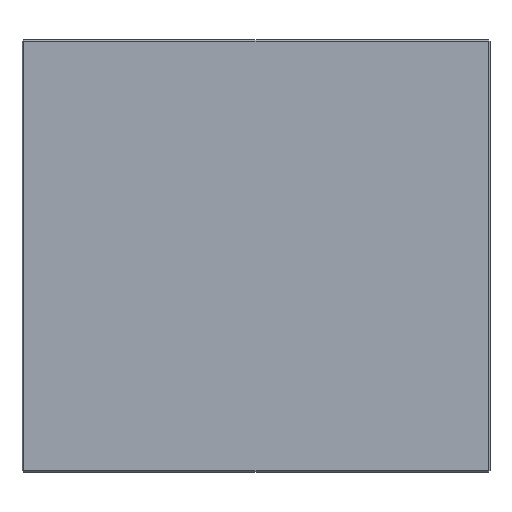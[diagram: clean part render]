
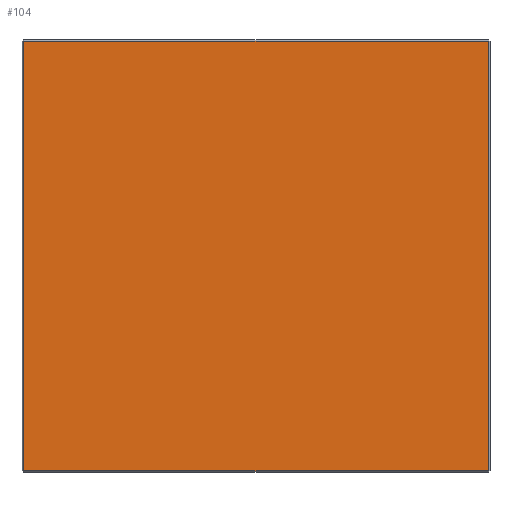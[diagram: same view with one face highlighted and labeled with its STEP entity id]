
A CAD part, front view. The second image highlights one B-rep face of the part: STEP entity #104.
In plain terms, the highlighted planar face has unit normal (0, -1, 0).
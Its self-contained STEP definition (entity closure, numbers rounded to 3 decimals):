
#3 = PLANE ( 'NONE',  #471 ) ;
#15 = VERTEX_POINT ( 'NONE', #523 ) ;
#34 = DIRECTION ( 'NONE',  ( 0., 0., 1. ) ) ;
#35 = DIRECTION ( 'NONE',  ( 0., 1., 0. ) ) ;
#42 = CARTESIAN_POINT ( 'NONE',  ( 0., 0., -122. ) ) ;
#101 = VECTOR ( 'NONE', #309, 1000. ) ;
#104 = ADVANCED_FACE ( 'NONE', ( #622 ), #3, .F. ) ;
#110 = LINE ( 'NONE', #601, #101 ) ;
#155 = VECTOR ( 'NONE', #290, 1000. ) ;
#208 = LINE ( 'NONE', #42, #517 ) ;
#232 = EDGE_CURVE ( 'NONE', #284, #15, #291, .T. ) ;
#237 = DIRECTION ( 'NONE',  ( 0., 0., -1. ) ) ;
#248 = DIRECTION ( 'NONE',  ( 1., 0., 0. ) ) ;
#268 = EDGE_LOOP ( 'NONE', ( #445, #410, #311, #360 ) ) ;
#284 = VERTEX_POINT ( 'NONE', #557 ) ;
#290 = DIRECTION ( 'NONE',  ( 0., 0., 1. ) ) ;
#291 = LINE ( 'NONE', #540, #357 ) ;
#301 = CARTESIAN_POINT ( 'NONE',  ( 132., 0., 0. ) ) ;
#309 = DIRECTION ( 'NONE',  ( -1., 0., 0. ) ) ;
#311 = ORIENTED_EDGE ( 'NONE', *, *, #232, .T. ) ;
#324 = VERTEX_POINT ( 'NONE', #383 ) ;
#346 = CARTESIAN_POINT ( 'NONE',  ( 132., 0., 122. ) ) ;
#357 = VECTOR ( 'NONE', #237, 1000. ) ;
#360 = ORIENTED_EDGE ( 'NONE', *, *, #386, .T. ) ;
#383 = CARTESIAN_POINT ( 'NONE',  ( 132., 0., -122. ) ) ;
#386 = EDGE_CURVE ( 'NONE', #15, #324, #208, .T. ) ;
#410 = ORIENTED_EDGE ( 'NONE', *, *, #567, .T. ) ;
#411 = EDGE_CURVE ( 'NONE', #324, #632, #534, .T. ) ;
#436 = CARTESIAN_POINT ( 'NONE',  ( 0., 0., 0. ) ) ;
#445 = ORIENTED_EDGE ( 'NONE', *, *, #411, .T. ) ;
#471 = AXIS2_PLACEMENT_3D ( 'NONE', #436, #35, #34 ) ;
#517 = VECTOR ( 'NONE', #248, 1000. ) ;
#523 = CARTESIAN_POINT ( 'NONE',  ( -132., 0., -122. ) ) ;
#534 = LINE ( 'NONE', #301, #155 ) ;
#540 = CARTESIAN_POINT ( 'NONE',  ( -132., 0., 0. ) ) ;
#557 = CARTESIAN_POINT ( 'NONE',  ( -132., 0., 122. ) ) ;
#567 = EDGE_CURVE ( 'NONE', #632, #284, #110, .T. ) ;
#601 = CARTESIAN_POINT ( 'NONE',  ( 0., 0., 122. ) ) ;
#622 = FACE_OUTER_BOUND ( 'NONE', #268, .T. ) ;
#632 = VERTEX_POINT ( 'NONE', #346 ) ;
